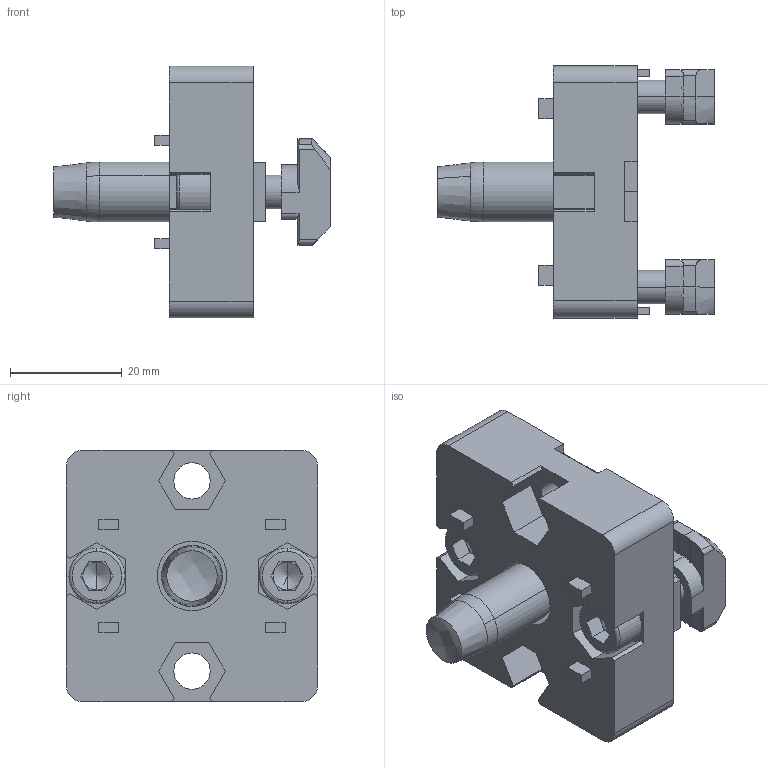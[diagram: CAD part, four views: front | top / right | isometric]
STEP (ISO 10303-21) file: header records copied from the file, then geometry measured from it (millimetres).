
FILE_DESCRIPTION (( 'STEP AP203' ), '1' );
FILE_NAME ('333021_T-Verbinder-Satz 45x45 (t=15).step', '2018-11-28T07:40:44', ( '' ), ( '' ), 'SwSTEP 2.0', 'SolidWorks 2017', '' );
FILE_SCHEMA (( 'CONFIG_CONTROL_DESIGN' ));
Length unit declared in the file: millimetre
Products named in the file (5): 342030 Hammermutter Nut 10 M6; 999291 Endplatte 45x45 t=15; 330020 Zentralschraube SF12x30 T50; DIN 912 M6 x 20 --- 20C_DIN 912 M6 x 20 --- 20C; 333021_T-Verbinder-Satz 45x45 (t=15)
Assembly tree (6 placements, depth 2):
  333021_T-Verbinder-Satz 45x45 (t=15)
    999291 Endplatte 45x45 t=15
    330020 Zentralschraube SF12x30 T50
    342030 Hammermutter Nut 10 M6  x2
    DIN 912 M6 x 20 --- 20C_DIN 912 M6 x 20 --- 20C  x2
Bounding box: 49.5 x 45 x 45 mm (x, y, z)
Volume: 25655 mm3; surface area: 15260.6 mm2
Topology: 6 solids, 6 shells, 376 faces, 1005 edges, 652 vertices
Faces by surface type: plane 237, cylinder 106, cone 20, torus 10, bspline 3
Entity records: 10075 total; most frequent: CARTESIAN_POINT 2145, ORIENTED_EDGE 1568, DIRECTION 1497, EDGE_CURVE 784, LINE 533, VECTOR 533, VERTEX_POINT 514, AXIS2_PLACEMENT_3D 482
